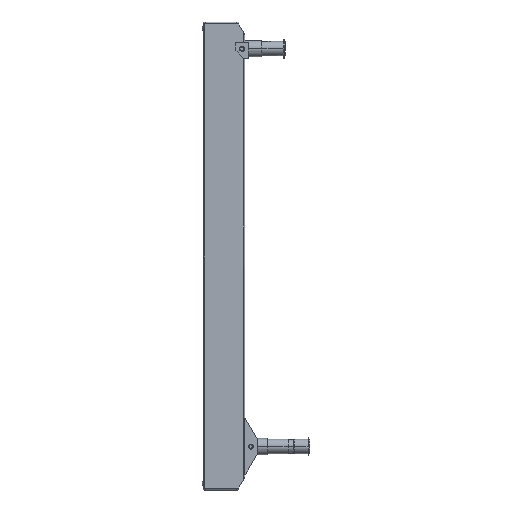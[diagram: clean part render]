
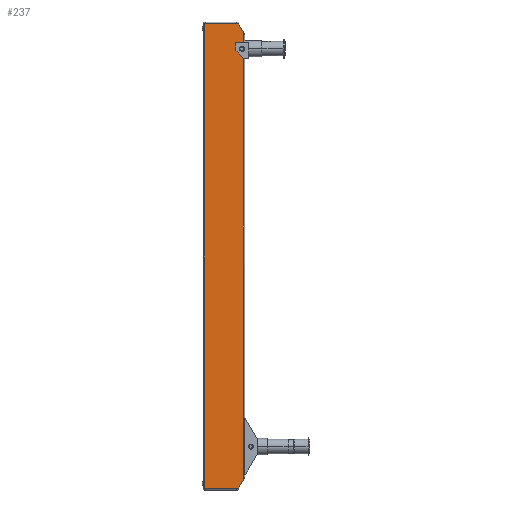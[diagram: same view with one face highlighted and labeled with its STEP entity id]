
A CAD part, left-side view. The second image highlights one B-rep face of the part: STEP entity #237.
In plain terms, the highlighted planar face has unit normal (-1, 0, 0).
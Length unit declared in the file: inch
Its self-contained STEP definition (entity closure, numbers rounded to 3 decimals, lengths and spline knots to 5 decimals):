
#234 = EDGE_CURVE ( 'NONE', #39206, #48243, #3995, .T. ) ;
#237 = ADVANCED_FACE ( 'NONE', ( #41297 ), #4259, .T. ) ;
#1975 = CARTESIAN_POINT ( 'NONE',  ( -1.5, -2.125, 0. ) ) ;
#2446 = CIRCLE ( 'NONE', #10178, 0.14062 ) ;
#2466 = EDGE_CURVE ( 'NONE', #52999, #33705, #12752, .T. ) ;
#2632 = EDGE_CURVE ( 'NONE', #17574, #41096, #46301, .T. ) ;
#3995 = LINE ( 'NONE', #48823, #48695 ) ;
#4176 = ORIENTED_EDGE ( 'NONE', *, *, #10009, .T. ) ;
#4259 = PLANE ( 'NONE',  #22815 ) ;
#5975 = DIRECTION ( 'NONE',  ( 0., 1., 0. ) ) ;
#6681 = LINE ( 'NONE', #48282, #27484 ) ;
#8476 = ORIENTED_EDGE ( 'NONE', *, *, #22209, .F. ) ;
#8896 = CARTESIAN_POINT ( 'NONE',  ( -1.5, -2.315, 26.5 ) ) ;
#10009 = EDGE_CURVE ( 'NONE', #29530, #48243, #24730, .T. ) ;
#10178 = AXIS2_PLACEMENT_3D ( 'NONE', #48276, #15540, #31216 ) ;
#11376 = LINE ( 'NONE', #43595, #28293 ) ;
#11441 = LINE ( 'NONE', #52784, #27800 ) ;
#12289 = CARTESIAN_POINT ( 'NONE',  ( -1.5, -2.5, 0.64952 ) ) ;
#12711 = DIRECTION ( 'NONE',  ( 0., 0.5, 0.866 ) ) ;
#12752 = LINE ( 'NONE', #29238, #50436 ) ;
#12912 = EDGE_CURVE ( 'NONE', #39206, #16918, #11441, .T. ) ;
#12928 = DIRECTION ( 'NONE',  ( 1., 0., 0. ) ) ;
#13251 = AXIS2_PLACEMENT_3D ( 'NONE', #8896, #12928, #15707 ) ;
#13857 = ORIENTED_EDGE ( 'NONE', *, *, #12912, .T. ) ;
#14093 = DIRECTION ( 'NONE',  ( 0., 0., -1. ) ) ;
#15540 = DIRECTION ( 'NONE',  ( 1., 0., 0. ) ) ;
#15707 = DIRECTION ( 'NONE',  ( 0., 1., 0. ) ) ;
#15749 = DIRECTION ( 'NONE',  ( 0., 1., 0. ) ) ;
#16918 = VERTEX_POINT ( 'NONE', #18325 ) ;
#17574 = VERTEX_POINT ( 'NONE', #38512 ) ;
#18112 = ORIENTED_EDGE ( 'NONE', *, *, #234, .F. ) ;
#18325 = CARTESIAN_POINT ( 'NONE',  ( -1.5, -2.37942, 26.375 ) ) ;
#18473 = VECTOR ( 'NONE', #14093, 39.37008 ) ;
#18680 = DIRECTION ( 'NONE',  ( 0., 1., 0. ) ) ;
#20436 = CARTESIAN_POINT ( 'NONE',  ( -1.5, -0.1, 28. ) ) ;
#20699 = DIRECTION ( 'NONE',  ( 0., -1., 0. ) ) ;
#20824 = CARTESIAN_POINT ( 'NONE',  ( -1.5, -0.1, 28. ) ) ;
#21015 = VERTEX_POINT ( 'NONE', #36969 ) ;
#21633 = VERTEX_POINT ( 'NONE', #35294 ) ;
#21781 = ORIENTED_EDGE ( 'NONE', *, *, #2466, .T. ) ;
#22189 = EDGE_LOOP ( 'NONE', ( #32439, #38940, #21781, #8476, #4176, #18112, #13857, #36720, #34993, #35912, #23421 ) ) ;
#22209 = EDGE_CURVE ( 'NONE', #29530, #33705, #11376, .T. ) ;
#22815 = AXIS2_PLACEMENT_3D ( 'NONE', #20436, #36933, #20699 ) ;
#23369 = CARTESIAN_POINT ( 'NONE',  ( -1.5, -0.1, 0. ) ) ;
#23421 = ORIENTED_EDGE ( 'NONE', *, *, #2632, .F. ) ;
#24730 = LINE ( 'NONE', #12289, #30885 ) ;
#27484 = VECTOR ( 'NONE', #44521, 39.37008 ) ;
#27800 = VECTOR ( 'NONE', #15749, 39.37008 ) ;
#28256 = CARTESIAN_POINT ( 'NONE',  ( -1.5, -2.37942, 26.625 ) ) ;
#28293 = VECTOR ( 'NONE', #18680, 39.37008 ) ;
#28658 = LINE ( 'NONE', #32427, #30972 ) ;
#29238 = CARTESIAN_POINT ( 'NONE',  ( -1.5, -0.1, 28. ) ) ;
#29530 = VERTEX_POINT ( 'NONE', #1975 ) ;
#29913 = CARTESIAN_POINT ( 'NONE',  ( -1.5, -2.4, 0.47631 ) ) ;
#30035 = CARTESIAN_POINT ( 'NONE',  ( -1.5, -2.4, 28. ) ) ;
#30555 = CARTESIAN_POINT ( 'NONE',  ( -1.5, -2.4, 26.375 ) ) ;
#30885 = VECTOR ( 'NONE', #44765, 39.37008 ) ;
#30972 = VECTOR ( 'NONE', #12711, 39.37008 ) ;
#31216 = DIRECTION ( 'NONE',  ( 0., 1., 0. ) ) ;
#32215 = EDGE_CURVE ( 'NONE', #21015, #52999, #47574, .T. ) ;
#32427 = CARTESIAN_POINT ( 'NONE',  ( -1.5, -2.5, 27.35048 ) ) ;
#32439 = ORIENTED_EDGE ( 'NONE', *, *, #51371, .T. ) ;
#33280 = DIRECTION ( 'NONE',  ( 0., 0., -1. ) ) ;
#33705 = VERTEX_POINT ( 'NONE', #23369 ) ;
#34386 = EDGE_CURVE ( 'NONE', #21633, #42408, #38276, .T. ) ;
#34993 = ORIENTED_EDGE ( 'NONE', *, *, #34386, .T. ) ;
#35294 = CARTESIAN_POINT ( 'NONE',  ( -1.5, -2.17438, 26.5 ) ) ;
#35912 = ORIENTED_EDGE ( 'NONE', *, *, #49905, .T. ) ;
#36720 = ORIENTED_EDGE ( 'NONE', *, *, #48442, .T. ) ;
#36933 = DIRECTION ( 'NONE',  ( -1., 0., 0. ) ) ;
#36969 = CARTESIAN_POINT ( 'NONE',  ( -1.5, -2.125, 28. ) ) ;
#38276 = CIRCLE ( 'NONE', #13251, 0.14062 ) ;
#38512 = CARTESIAN_POINT ( 'NONE',  ( -1.5, -2.4, 27.52369 ) ) ;
#38940 = ORIENTED_EDGE ( 'NONE', *, *, #32215, .T. ) ;
#39206 = VERTEX_POINT ( 'NONE', #30555 ) ;
#41096 = VERTEX_POINT ( 'NONE', #44778 ) ;
#41297 = FACE_OUTER_BOUND ( 'NONE', #22189, .T. ) ;
#42408 = VERTEX_POINT ( 'NONE', #28256 ) ;
#43016 = CARTESIAN_POINT ( 'NONE',  ( -1.5, -0.1, 28. ) ) ;
#43595 = CARTESIAN_POINT ( 'NONE',  ( -1.5, -0.1, 0. ) ) ;
#44521 = DIRECTION ( 'NONE',  ( 0., -1., 0. ) ) ;
#44765 = DIRECTION ( 'NONE',  ( 0., -0.5, 0.866 ) ) ;
#44778 = CARTESIAN_POINT ( 'NONE',  ( -1.5, -2.4, 26.625 ) ) ;
#46301 = LINE ( 'NONE', #30035, #18473 ) ;
#47574 = LINE ( 'NONE', #43016, #49403 ) ;
#48243 = VERTEX_POINT ( 'NONE', #29913 ) ;
#48276 = CARTESIAN_POINT ( 'NONE',  ( -1.5, -2.315, 26.5 ) ) ;
#48282 = CARTESIAN_POINT ( 'NONE',  ( -1.5, -2.5, 26.625 ) ) ;
#48442 = EDGE_CURVE ( 'NONE', #16918, #21633, #2446, .T. ) ;
#48695 = VECTOR ( 'NONE', #52611, 39.37008 ) ;
#48823 = CARTESIAN_POINT ( 'NONE',  ( -1.5, -2.4, 28. ) ) ;
#49403 = VECTOR ( 'NONE', #5975, 39.37008 ) ;
#49905 = EDGE_CURVE ( 'NONE', #42408, #41096, #6681, .T. ) ;
#50436 = VECTOR ( 'NONE', #33280, 39.37008 ) ;
#51371 = EDGE_CURVE ( 'NONE', #17574, #21015, #28658, .T. ) ;
#52611 = DIRECTION ( 'NONE',  ( 0., 0., -1. ) ) ;
#52784 = CARTESIAN_POINT ( 'NONE',  ( -1.5, -2.5, 26.375 ) ) ;
#52999 = VERTEX_POINT ( 'NONE', #20824 ) ;
